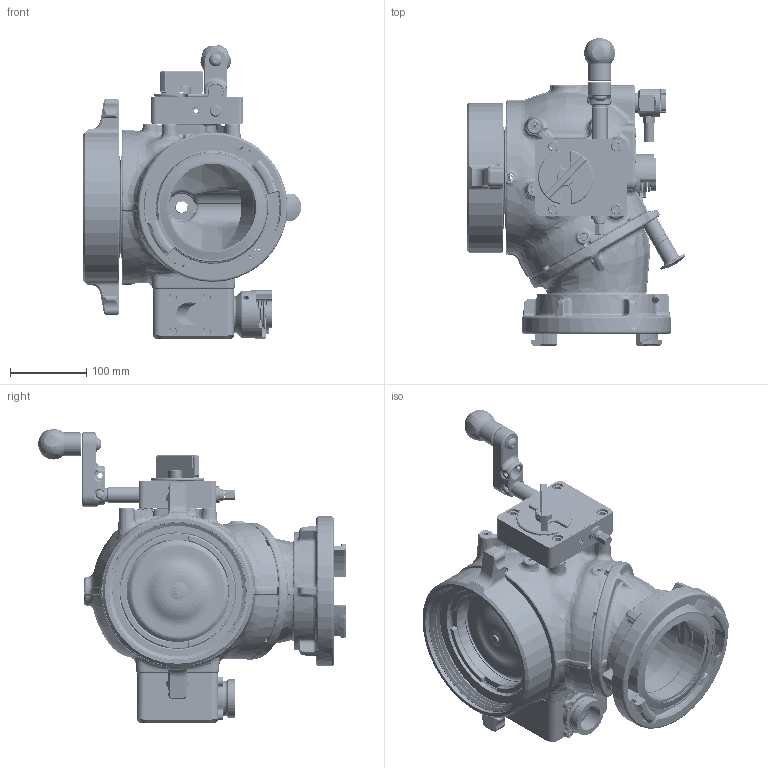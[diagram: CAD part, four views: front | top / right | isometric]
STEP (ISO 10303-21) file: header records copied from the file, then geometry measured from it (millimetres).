
FILE_DESCRIPTION (( 'STEP AP214' ), '1' );
FILE_NAME ('AXD_ASSEMBLY.SLDASM_AXD1ST-NX-T.step', '2014-09-12T21:03:52', ( '' ), ( '' ), 'SwSTEP 2.0', 'SolidWorks 2014', '' );
FILE_SCHEMA (( 'AUTOMOTIVE_DESIGN' ));
Length unit declared in the file: inch
Products named in the file (1): AXD_ASSEMBLY.SLDASM_AXD1ST-NX-T
Bounding box: 286.48 x 403.23 x 384.51 mm (x, y, z)
Surface area: 666814.8 mm2 (no closed solid volume)
Topology: 0 solids, 362 shells, 3078 faces, 19344 edges, 16355 vertices
Faces by surface type: plane 1102, cylinder 661, bspline 585, cone 411, torus 284, sphere 35
Entity records: 307326 total; most frequent: CARTESIAN_POINT 136699, ORIENTED_EDGE 25136, DIRECTION 21298, EDGE_CURVE 19325, VERTEX_POINT 16353, VECTOR 10376, LINE 10376, AXIS2_PLACEMENT_3D 5461
